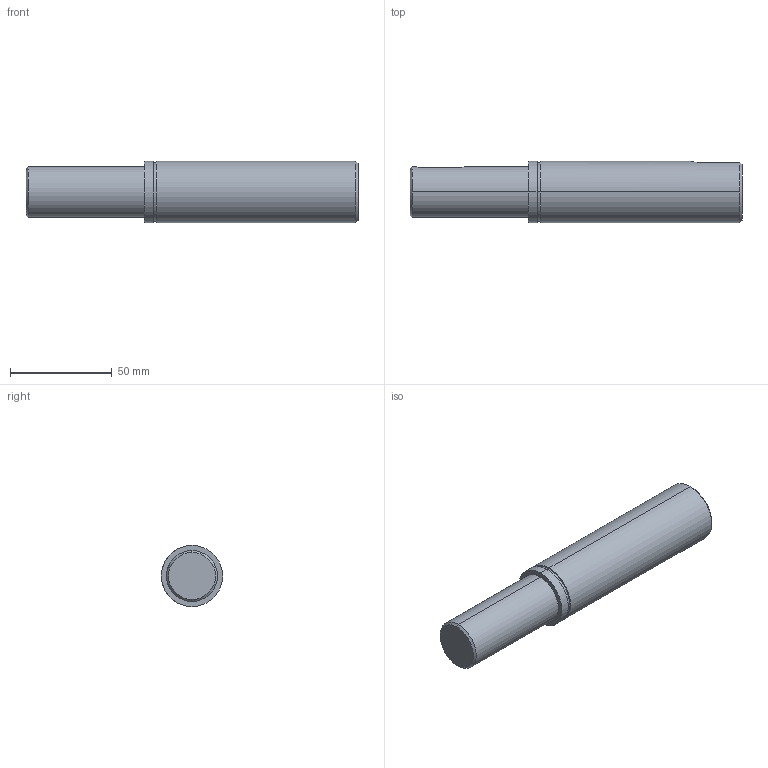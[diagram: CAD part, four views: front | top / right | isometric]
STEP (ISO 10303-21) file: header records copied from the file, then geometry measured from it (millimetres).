
FILE_DESCRIPTION (( 'STEP AP203' ), '1' );
FILE_NAME ('084.813.008.STEP', '2015-02-11T08:34:47', ( '' ), ( '' ), 'SwSTEP 2.0', 'SolidWorks 2012', '' );
FILE_SCHEMA (( 'CONFIG_CONTROL_DESIGN' ));
Length unit declared in the file: millimetre
Products named in the file (1): 084.813.008
Bounding box: 163 x 30 x 30 mm (x, y, z)
Volume: 101061.1 mm3; surface area: 16248.8 mm2
Topology: 1 solids, 1 shells, 27 faces, 59 edges, 38 vertices
Faces by surface type: cylinder 11, plane 11, cone 5
Entity records: 916 total; most frequent: CARTESIAN_POINT 228, DIRECTION 135, ORIENTED_EDGE 118, EDGE_CURVE 59, AXIS2_PLACEMENT_3D 53, VERTEX_POINT 38, EDGE_LOOP 31, LINE 29
